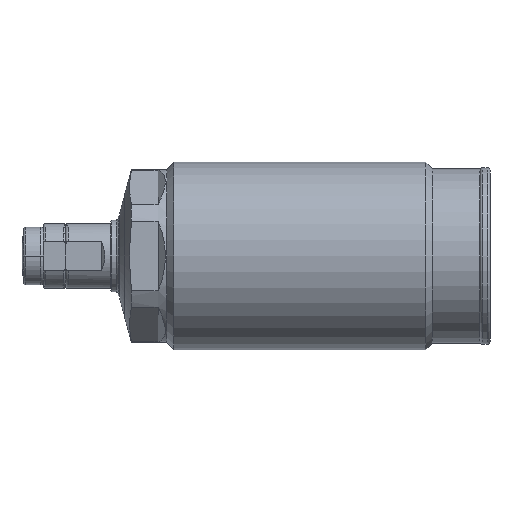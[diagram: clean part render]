
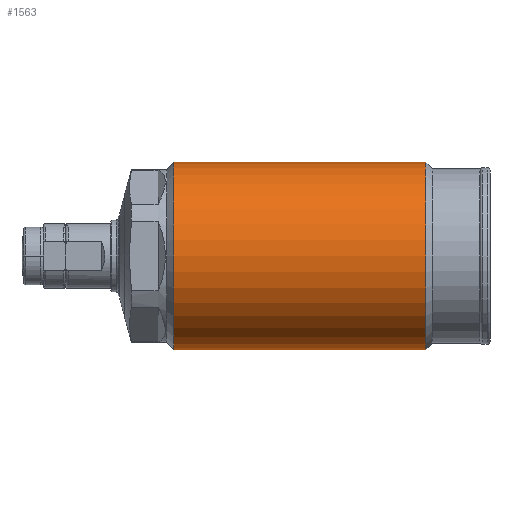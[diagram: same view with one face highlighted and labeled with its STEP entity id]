
A CAD part, left-side view. The second image highlights one B-rep face of the part: STEP entity #1563.
In plain terms, the highlighted cylindrical face has radius 13 mm (diameter 26 mm), a partial arc.
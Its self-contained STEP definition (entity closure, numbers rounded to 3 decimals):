
#1214=CYLINDRICAL_SURFACE('',#4005,13.);
#1285=LINE('',#5529,#1416);
#1286=LINE('',#5530,#1417);
#1416=VECTOR('',#4511,1.);
#1417=VECTOR('',#4512,1.);
#1563=ADVANCED_FACE('',(#1792),#1214,.T.);
#1792=FACE_OUTER_BOUND('',#1970,.T.);
#1970=EDGE_LOOP('',(#2322,#2323,#2324,#2325));
#2322=ORIENTED_EDGE('',*,*,#3309,.F.);
#2323=ORIENTED_EDGE('',*,*,#3341,.T.);
#2324=ORIENTED_EDGE('',*,*,#3310,.T.);
#2325=ORIENTED_EDGE('',*,*,#3342,.F.);
#3030=VERTEX_POINT('',#5521);
#3031=VERTEX_POINT('',#5523);
#3032=VERTEX_POINT('',#5527);
#3033=VERTEX_POINT('',#5528);
#3309=EDGE_CURVE('',#3033,#3031,#1285,.T.);
#3310=EDGE_CURVE('',#3032,#3030,#1286,.T.);
#3341=EDGE_CURVE('',#3033,#3032,#3716,.T.);
#3342=EDGE_CURVE('',#3031,#3030,#3717,.T.);
#3716=CIRCLE('',#4002,13.);
#3717=CIRCLE('',#4004,13.);
#4002=AXIS2_PLACEMENT_3D('',#5594,#4599,#4600);
#4004=AXIS2_PLACEMENT_3D('',#5596,#4603,#4604);
#4005=AXIS2_PLACEMENT_3D('',#5597,#4605,#4606);
#4511=DIRECTION('',(0.,1.,0.));
#4512=DIRECTION('',(0.,1.,0.));
#4599=DIRECTION('',(0.,1.,0.));
#4600=DIRECTION('',(0.,0.,1.));
#4603=DIRECTION('',(0.,1.,0.));
#4604=DIRECTION('',(0.,0.,1.));
#4605=DIRECTION('',(0.,1.,0.));
#4606=DIRECTION('',(0.,0.,1.));
#5521=CARTESIAN_POINT('',(0.,43.9,13.));
#5523=CARTESIAN_POINT('',(0.,43.9,-13.));
#5527=CARTESIAN_POINT('',(0.,8.9,13.));
#5528=CARTESIAN_POINT('',(0.,8.9,-13.));
#5529=CARTESIAN_POINT('',(0.,52.7,-13.));
#5530=CARTESIAN_POINT('',(0.,52.7,13.));
#5594=CARTESIAN_POINT('',(0.,8.9,0.));
#5596=CARTESIAN_POINT('',(0.,43.9,0.));
#5597=CARTESIAN_POINT('',(0.,52.7,0.));
